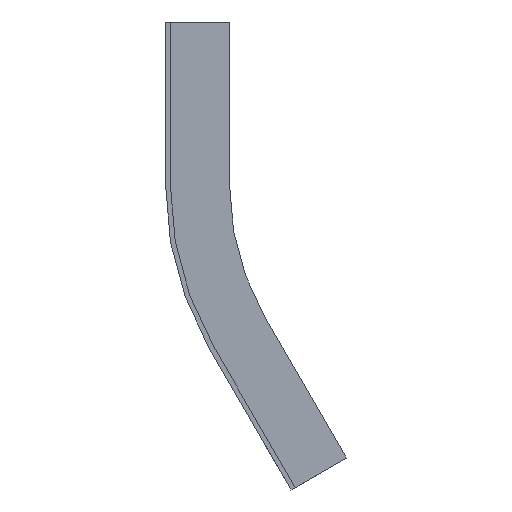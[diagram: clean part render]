
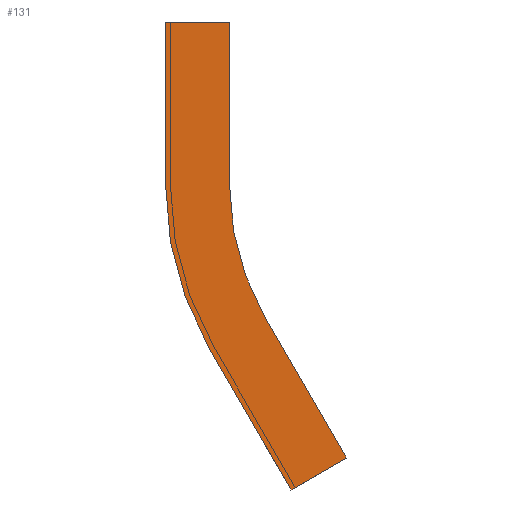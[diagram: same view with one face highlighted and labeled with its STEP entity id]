
A CAD part, left-side view. The second image highlights one B-rep face of the part: STEP entity #131.
In plain terms, the highlighted planar face has unit normal (-1, 0, 0).
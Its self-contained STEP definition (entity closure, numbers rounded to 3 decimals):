
#2 = EDGE_CURVE ( 'NONE', #308, #80, #116, .T. ) ;
#21 = AXIS2_PLACEMENT_3D ( 'NONE', #542, #135, #618 ) ;
#54 = VERTEX_POINT ( 'NONE', #794 ) ;
#64 = EDGE_CURVE ( 'NONE', #80, #74, #90, .T. ) ;
#71 = EDGE_CURVE ( 'NONE', #760, #659, #682, .T. ) ;
#73 = VECTOR ( 'NONE', #194, 1000. ) ;
#74 = VERTEX_POINT ( 'NONE', #202 ) ;
#80 = VERTEX_POINT ( 'NONE', #538 ) ;
#90 = CIRCLE ( 'NONE', #21, 101.5 ) ;
#97 = VERTEX_POINT ( 'NONE', #465 ) ;
#100 = EDGE_CURVE ( 'NONE', #127, #54, #144, .T. ) ;
#116 = LINE ( 'NONE', #669, #667 ) ;
#127 = VERTEX_POINT ( 'NONE', #862 ) ;
#131 = ADVANCED_FACE ( 'NONE', ( #481 ), #740, .T. ) ;
#132 = DIRECTION ( 'NONE',  ( 0., -1., 0. ) ) ;
#135 = DIRECTION ( 'NONE',  ( 1., 0., 0. ) ) ;
#136 = AXIS2_PLACEMENT_3D ( 'NONE', #450, #731, #535 ) ;
#141 = DIRECTION ( 'NONE',  ( 0., 0., 1. ) ) ;
#144 = LINE ( 'NONE', #673, #633 ) ;
#194 = DIRECTION ( 'NONE',  ( 0., 0., -1. ) ) ;
#201 = CARTESIAN_POINT ( 'NONE',  ( -303.5, -101.5, -51.2 ) ) ;
#202 = CARTESIAN_POINT ( 'NONE',  ( -303.5, 0., -51.2 ) ) ;
#222 = EDGE_CURVE ( 'NONE', #74, #127, #223, .T. ) ;
#223 = LINE ( 'NONE', #822, #372 ) ;
#235 = DIRECTION ( 'NONE',  ( 0., 0.5, 0.866 ) ) ;
#240 = ORIENTED_EDGE ( 'NONE', *, *, #64, .F. ) ;
#241 = LINE ( 'NONE', #526, #73 ) ;
#249 = ORIENTED_EDGE ( 'NONE', *, *, #660, .F. ) ;
#260 = CARTESIAN_POINT ( 'NONE',  ( -303.5, -56.519, -136.291 ) ) ;
#288 = ORIENTED_EDGE ( 'NONE', *, *, #71, .F. ) ;
#308 = VERTEX_POINT ( 'NONE', #456 ) ;
#317 = ORIENTED_EDGE ( 'NONE', *, *, #2, .F. ) ;
#322 = DIRECTION ( 'NONE',  ( -1., 0., 0. ) ) ;
#333 = CIRCLE ( 'NONE', #136, 81.5 ) ;
#372 = VECTOR ( 'NONE', #696, 1000. ) ;
#374 = CARTESIAN_POINT ( 'NONE',  ( -303.5, -30.919, -91.95 ) ) ;
#450 = CARTESIAN_POINT ( 'NONE',  ( -303.5, -101.5, -51.2 ) ) ;
#454 = CARTESIAN_POINT ( 'NONE',  ( -303.5, -56.519, -136.291 ) ) ;
#456 = CARTESIAN_POINT ( 'NONE',  ( -303.5, -39.198, -146.291 ) ) ;
#460 = DIRECTION ( 'NONE',  ( 0., 0.866, -0.5 ) ) ;
#465 = CARTESIAN_POINT ( 'NONE',  ( -303.5, -20., -51.2 ) ) ;
#481 = FACE_OUTER_BOUND ( 'NONE', #493, .T. ) ;
#482 = ORIENTED_EDGE ( 'NONE', *, *, #834, .F. ) ;
#493 = EDGE_LOOP ( 'NONE', ( #762, #507, #240, #317, #482, #288, #249, #574 ) ) ;
#507 = ORIENTED_EDGE ( 'NONE', *, *, #222, .F. ) ;
#526 = CARTESIAN_POINT ( 'NONE',  ( -303.5, -20., -51.2 ) ) ;
#535 = DIRECTION ( 'NONE',  ( 0., 0., -1. ) ) ;
#538 = CARTESIAN_POINT ( 'NONE',  ( -303.5, -13.598, -101.95 ) ) ;
#542 = CARTESIAN_POINT ( 'NONE',  ( -303.5, -101.5, -51.2 ) ) ;
#574 = ORIENTED_EDGE ( 'NONE', *, *, #678, .F. ) ;
#581 = LINE ( 'NONE', #668, #842 ) ;
#618 = DIRECTION ( 'NONE',  ( 0., 0., 1. ) ) ;
#633 = VECTOR ( 'NONE', #132, 1000. ) ;
#659 = VERTEX_POINT ( 'NONE', #454 ) ;
#660 = EDGE_CURVE ( 'NONE', #97, #760, #333, .T. ) ;
#667 = VECTOR ( 'NONE', #235, 1000. ) ;
#668 = CARTESIAN_POINT ( 'NONE',  ( -303.5, -39.198, -146.291 ) ) ;
#669 = CARTESIAN_POINT ( 'NONE',  ( -303.5, -13.598, -101.95 ) ) ;
#673 = CARTESIAN_POINT ( 'NONE',  ( -303.5, -20., 0. ) ) ;
#678 = EDGE_CURVE ( 'NONE', #54, #97, #241, .T. ) ;
#682 = LINE ( 'NONE', #260, #847 ) ;
#696 = DIRECTION ( 'NONE',  ( 0., 0., 1. ) ) ;
#731 = DIRECTION ( 'NONE',  ( -1., 0., 0. ) ) ;
#738 = AXIS2_PLACEMENT_3D ( 'NONE', #201, #322, #141 ) ;
#740 = PLANE ( 'NONE',  #738 ) ;
#760 = VERTEX_POINT ( 'NONE', #374 ) ;
#762 = ORIENTED_EDGE ( 'NONE', *, *, #100, .F. ) ;
#794 = CARTESIAN_POINT ( 'NONE',  ( -303.5, -20., 0. ) ) ;
#801 = DIRECTION ( 'NONE',  ( 0., -0.5, -0.866 ) ) ;
#822 = CARTESIAN_POINT ( 'NONE',  ( -303.5, 0., 0. ) ) ;
#834 = EDGE_CURVE ( 'NONE', #659, #308, #581, .T. ) ;
#842 = VECTOR ( 'NONE', #460, 1000. ) ;
#847 = VECTOR ( 'NONE', #801, 1000. ) ;
#862 = CARTESIAN_POINT ( 'NONE',  ( -303.5, 0., 0. ) ) ;
